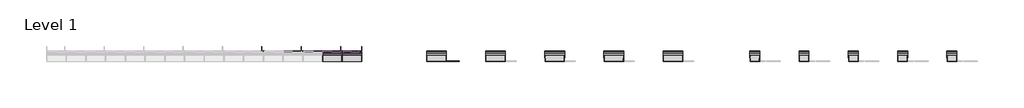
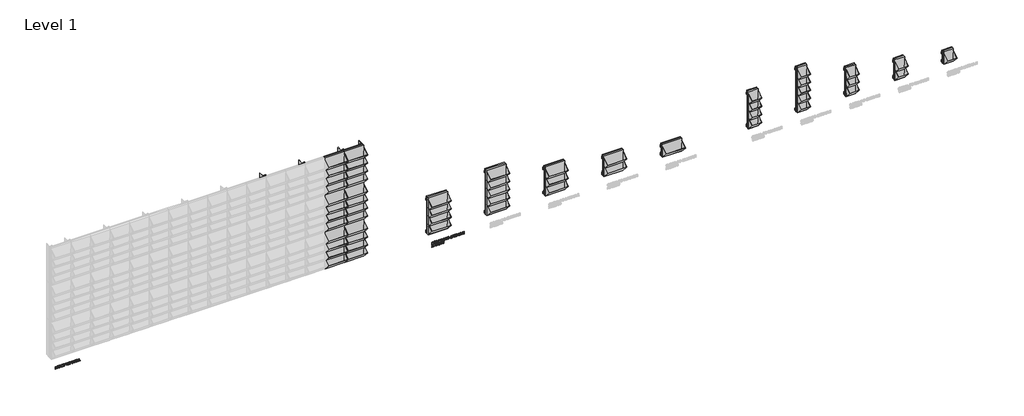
# One storey, part 2 of 5: 41 members, 16 plates, 2 proxies.
"""IFC4 building model written with IfcOpenShell, lengths in millimetres."""

from ifc_helpers import new_model, si_unit, frame, origin, place, context, project, spatial, polyline, outline, extrude, transform, mapped, element, save
from components import rectangular_mullion_profile_l_40x60x2_middle_c334e065, rectangular_mullion_profile_l_40x60x2_side_1_11e097ac, rectangular_mullion_profile_z_30x20x30x3_bba282d4, rectangular_mullion_profile_z_30x20x30x3_c05b1c9d, rectangular_mullion_profile_z_30x20x30x3_3003ded6, rectangular_mullion_profile_z_30x20x30x3_0b947876, rectangular_mullion_profile_z_30x20x30x3_bottom_9ee6513d, rectangular_mullion_profile_z_30x20x30x3_bottom_7d50e40c, rectangular_mullion_profile_z_30x20x30x3_bottom_b9145eb6, panel_ecofacade_panel_ecofacade_bfa1dbbb, panel_ecofacade_panel_ecofacade_b6755e2b, panel_ecofacade_panel_ecofacade_10492d0d, panel_ecofacade_panel_ecofacade_8605d590, panel_ecofacade_panel_ecofacade_d5916462, panel_ecofacade_panel_ecofacade_49a1f75b, panel_ecofacade_panel_ecofacade_a60c9421, panel_ecofacade_panel_ecofacade_c2fa214b, panel_ecofacade_panel_ecofacade_08ac33c5, panel_ecofacade_panel_ecofacade_ab77ffb4

model = new_model("IFC4")

# Units and contexts
model_context = context("Model", 3, world=origin())
ifc_project = project(units=[si_unit("LENGTHUNIT", "METRE", prefix="MILLI")], contexts=[model_context])

# Site, building, storey
site = spatial("IfcSite", under=ifc_project)
building = spatial("IfcBuilding", under=site)
storey = spatial("IfcBuildingStorey", under=building, Name="Level 1", Elevation=0.0)

# Proxies
placement = place(None, origin())
element("IfcBuildingElementProxy", 1, Name="30mm Arial", ObjectType="30mm Arial", at=placement, inside=storey, context=model_context, shape_type="SweptSolid", body=[
    extrude(outline(polyline([(-74.4591489, -760.1545374), (-80.2128233, -758.528499), (-84.0240807, -754.2721043), (-85.2895948, -747.5435426), (-84.1160512, -741.8450505), (-80.8271862, -737.9602166), (-76.3206318, -736.6100897), (-72.0605583, -737.7836333), (-69.0071377, -741.4293438), (-67.1162242, -748.0953656), (-65.0119392, -754.2463526), (-62.3999771, -755.4456479), (-59.2729801, -753.7533907), (-57.9780355, -748.3602406), (-59.2876954, -742.9818059), (-63.157814, -740.8480903), (-63.157814, -737.0809787), (-58.4415668, -738.5745796), (-55.2851393, -742.5477051), (-54.2109238, -748.5073934), (-55.2373146, -754.0918421), (-58.2465893, -757.9067784), (-62.5103417, -759.2127595), (-66.2553804, -758.1569382), (-69.0586412, -754.952686), (-70.9164452, -749.04818), (-72.3548638, -743.5630594), (-74.0655151, -741.0026007), (-76.4162811, -740.3772013), (-78.9436304, -741.2122935), (-80.8345438, -743.7543581), (-81.5224832, -747.6906954), (-80.6138146, -752.2082863), (-78.2299393, -755.1734152), (-74.4591489, -756.3874258), (-74.4591489, -760.1545374)])), frame((0.0, -152.7156773, 0.0), z_axis=(0.0, 1.0, 0.0), x_axis=(0.0, 0.0, 1.0)), (0.0, 0.0, 1.0), 5.0),
    extrude(outline(polyline([(-84.8187058, -723.425199), (-84.8187058, -719.6580874), (-58.4489244, -719.6580874), (-58.4489244, -709.7694193), (-54.6818128, -709.7694193), (-54.6818128, -733.313867), (-58.4489244, -733.313867), (-58.4489244, -723.425199), (-84.8187058, -723.425199)])), frame((0.0, -152.7156773, 0.0), z_axis=(0.0, 1.0, 0.0), x_axis=(0.0, 0.0, 1.0)), (0.0, 0.0, 1.0), 5.0),
    extrude(outline(polyline([(-84.8187058, -709.041013), (-84.8187058, -705.0605298), (-75.4009268, -701.6171543), (-75.4009268, -689.2048158), (-84.8187058, -685.7540827), (-84.8187058, -681.7735995), (-54.6818128, -693.8033408), (-54.6818128, -697.0112718), (-84.8187058, -709.041013)]), holes=[polyline([(-71.6338151, -700.233918), (-63.5771994, -697.2835044), (-58.4489244, -695.4073063), (-64.2246718, -693.2956636), (-71.6338151, -690.5806945), (-71.6338151, -700.233918)])]), frame((0.0, -152.7156773, 0.0), z_axis=(0.0, 1.0, 0.0), x_axis=(0.0, 0.0, 1.0)), (0.0, 0.0, 1.0), 5.0),
    extrude(outline(polyline([(-84.8187058, -677.7489705), (-84.8187058, -673.9818589), (-60.9358067, -673.9818589), (-84.8187058, -658.2365095), (-84.8187058, -654.2045228), (-54.6818128, -654.2045228), (-54.6818128, -657.9716344), (-78.5573543, -657.9716344), (-54.6818128, -673.7169838), (-54.6818128, -677.7489705), (-84.8187058, -677.7489705)])), frame((0.0, -152.7156773, 0.0), z_axis=(0.0, 1.0, 0.0), x_axis=(0.0, 0.0, 1.0)), (0.0, 0.0, 1.0), 5.0),
    extrude(outline(polyline([(-84.8187058, -647.6120774), (-84.8187058, -636.7154127), (-84.3036711, -631.8704069), (-82.7916761, -628.2688421), (-80.0583128, -625.5170848), (-75.6694806, -623.4569456), (-69.5883912, -622.6549629), (-62.42205, -623.8395429), (-57.271702, -627.4079983), (-55.1159136, -631.8372975), (-54.6818128, -637.2157323), (-54.6818128, -647.6120774), (-84.8187058, -647.6120774)]), holes=[polyline([(-81.0515942, -643.8449658), (-58.4489244, -643.8449658), (-58.4489244, -637.281951), (-59.0522509, -631.9403044), (-62.3926194, -628.0297188), (-69.5295301, -626.4220745), (-75.2280222, -627.2424514), (-78.9693821, -629.5343562), (-80.5071289, -632.3302594), (-81.0515942, -637.1789441), (-81.0515942, -643.8449658)])]), frame((0.0, -152.7156773, 0.0), z_axis=(0.0, 1.0, 0.0), x_axis=(0.0, 0.0, 1.0)), (0.0, 0.0, 1.0), 5.0),
    extrude(outline(polyline([(-84.8187058, -620.9847786), (-84.8187058, -617.0042954), (-75.4009268, -613.56092), (-75.4009268, -601.1485814), (-84.8187058, -597.6978483), (-84.8187058, -593.7173651), (-54.6818128, -605.7471064), (-54.6818128, -608.9550374), (-84.8187058, -620.9847786)]), holes=[polyline([(-71.6338151, -612.1776837), (-63.5771994, -609.2272701), (-58.4489244, -607.3510719), (-64.2246718, -605.2394292), (-71.6338151, -602.5244601), (-71.6338151, -612.1776837)])]), frame((0.0, -152.7156773, 0.0), z_axis=(0.0, 1.0, 0.0), x_axis=(0.0, 0.0, 1.0)), (0.0, 0.0, 1.0), 5.0),
    extrude(outline(polyline([(-84.8187058, -589.6927361), (-84.8187058, -585.9256245), (-71.6338151, -585.9256245), (-71.6338151, -581.378603), (-71.7662527, -579.193384), (-72.4836225, -577.4017987), (-74.4370759, -575.4115571), (-78.5720696, -572.5788657), (-84.8187058, -568.6572436), (-84.8187058, -564.2794479), (-76.6517256, -569.3047159), (-72.7742493, -572.3581365), (-71.1629262, -574.4992097), (-68.3596654, -568.1900335), (-62.9297271, -566.1482884), (-58.3716692, -567.3806931), (-55.494832, -570.6769158), (-54.6818128, -576.7065017), (-54.6818128, -589.6927361), (-84.8187058, -589.6927361)]), holes=[polyline([(-67.8667035, -585.9256245), (-58.4489244, -585.9256245), (-58.4489244, -576.5446336), (-59.7512267, -571.5083291), (-63.0695223, -569.9154001), (-65.6263022, -570.7504922), (-67.3332746, -573.1932286), (-67.8667035, -577.4937692), (-67.8667035, -585.9256245)])]), frame((0.0, -152.7156773, 0.0), z_axis=(0.0, 1.0, 0.0), x_axis=(0.0, 0.0, 1.0)), (0.0, 0.0, 1.0), 5.0),
    extrude(outline(polyline([(-84.8187058, -559.5558431), (-84.8187058, -548.6591784), (-84.3036711, -543.8141725), (-82.7916761, -540.2126078), (-80.0583128, -537.4608504), (-75.6694806, -535.4007113), (-69.5883912, -534.5987285), (-62.42205, -535.7833085), (-57.271702, -539.3517639), (-55.1159136, -543.7810631), (-54.6818128, -549.1594979), (-54.6818128, -559.5558431), (-84.8187058, -559.5558431)]), holes=[polyline([(-81.0515942, -555.7887314), (-58.4489244, -555.7887314), (-58.4489244, -549.2257166), (-59.0522509, -543.8840701), (-62.3926194, -539.9734845), (-69.5295301, -538.3658402), (-75.2280222, -539.186217), (-78.9693821, -541.4781218), (-80.5071289, -544.274025), (-81.0515942, -549.1227097), (-81.0515942, -555.7887314)])]), frame((0.0, -152.7156773, 0.0), z_axis=(0.0, 1.0, 0.0), x_axis=(0.0, 0.0, 1.0)), (0.0, 0.0, 1.0), 5.0),
    extrude(outline(polyline([(-84.8187058, -517.6467262), (-84.8187058, -513.8796146), (-58.4489244, -513.8796146), (-84.8187058, -506.3086031), (-84.8187058, -501.202401), (-58.4489244, -493.6313895), (-84.8187058, -493.6313895), (-84.8187058, -489.8642779), (-54.6818128, -489.8642779), (-54.6818128, -496.3463587), (-75.5554372, -502.4090539), (-80.3599761, -503.755502), (-75.9233192, -504.9989432), (-54.6818128, -511.1646454), (-54.6818128, -517.6467262), (-84.8187058, -517.6467262)])), frame((0.0, -152.7156773, 0.0), z_axis=(0.0, 1.0, 0.0), x_axis=(0.0, 0.0, 1.0)), (0.0, 0.0, 1.0), 5.0),
    extrude(outline(polyline([(-70.1475719, -484.6844994), (-77.6486858, -482.9628117), (-83.2404921, -477.9007554), (-85.2895948, -470.3223863), (-83.4354695, -463.0272864), (-77.9761007, -457.803362), (-69.8017628, -455.9602732), (-61.7377895, -457.7113915), (-56.1974866, -462.8028783), (-54.2109238, -470.3003134), (-58.4415668, -480.667228), (-70.1475719, -484.6844994)]), holes=[polyline([(-70.1843601, -480.9173878), (-60.7923327, -477.7756755), (-57.9780355, -470.2782405), (-59.438527, -464.7489741), (-63.5551265, -461.0076142), (-69.7723322, -459.7273849), (-78.461705, -462.7182655), (-81.5224832, -470.3444592), (-78.4911355, -477.9044342), (-70.1843601, -480.9173878)])]), frame((0.0, -152.7156773, 0.0), z_axis=(0.0, 1.0, 0.0), x_axis=(0.0, 0.0, 1.0)), (0.0, 0.0, 1.0), 5.0),
    extrude(outline(polyline([(-84.8187058, -450.7804947), (-84.8187058, -439.88383), (-84.3036711, -435.0388242), (-82.7916761, -431.4372594), (-80.0583128, -428.6855021), (-75.6694806, -426.6253629), (-69.5883912, -425.8233802), (-62.42205, -427.0079602), (-57.271702, -430.5764156), (-55.1159136, -435.0057148), (-54.6818128, -440.3841496), (-54.6818128, -450.7804947), (-84.8187058, -450.7804947)]), holes=[polyline([(-81.0515942, -447.0133831), (-58.4489244, -447.0133831), (-58.4489244, -440.4503683), (-59.0522509, -435.1087217), (-62.3926194, -431.1981361), (-69.5295301, -429.5904918), (-75.2280222, -430.4108687), (-78.9693821, -432.7027735), (-80.5071289, -435.4986767), (-81.0515942, -440.3473614), (-81.0515942, -447.0133831)])]), frame((0.0, -152.7156773, 0.0), z_axis=(0.0, 1.0, 0.0), x_axis=(0.0, 0.0, 1.0)), (0.0, 0.0, 1.0), 5.0),
    extrude(outline(polyline([(-54.6818128, -400.8662656), (-71.9354784, -400.8662656), (-79.543278, -402.7718944), (-81.5224832, -409.1509682), (-80.5218441, -413.5802674), (-77.6781163, -416.1333684), (-71.9354784, -416.8764901), (-54.6818128, -416.8764901), (-54.6818128, -420.6436017), (-72.0679159, -420.6436017), (-79.6131756, -419.4994887), (-83.8327821, -415.6808736), (-85.2895948, -408.7978014), (-83.6157317, -401.8080435), (-79.2747242, -398.1218659), (-72.0679159, -397.099154), (-54.6818128, -397.099154), (-54.6818128, -400.8662656)])), frame((0.0, -152.7156773, 0.0), z_axis=(0.0, 1.0, 0.0), x_axis=(0.0, 0.0, 1.0)), (0.0, 0.0, 1.0), 5.0),
    extrude(outline(polyline([(-84.8187058, -390.5067086), (-84.8187058, -371.6711505), (-81.0515942, -371.6711505), (-81.0515942, -386.739597), (-54.6818128, -386.739597), (-54.6818128, -390.5067086), (-84.8187058, -390.5067086)])), frame((0.0, -152.7156773, 0.0), z_axis=(0.0, 1.0, 0.0), x_axis=(0.0, 0.0, 1.0)), (0.0, 0.0, 1.0), 5.0),
    extrude(outline(polyline([(-84.8187058, -367.4331499), (-84.8187058, -345.3013691), (-81.0515942, -345.3013691), (-81.0515942, -363.6660383), (-71.1629262, -363.6660383), (-71.1629262, -346.7140359), (-67.3958146, -346.7140359), (-67.3958146, -363.6660383), (-58.4489244, -363.6660383), (-58.4489244, -345.772258), (-54.6818128, -345.772258), (-54.6818128, -367.4331499), (-84.8187058, -367.4331499)])), frame((0.0, -152.7156773, 0.0), z_axis=(0.0, 1.0, 0.0), x_axis=(0.0, 0.0, 1.0)), (0.0, 0.0, 1.0), 5.0),
    extrude(outline(polyline([(-117.6440396, -740.8480903), (-117.6440396, -755.6443041), (-115.7273744, -753.9446893), (-112.1037367, -749.6110394), (-106.9423523, -744.2142106), (-103.2488171, -741.9885245), (-99.6766829, -741.3189792), (-93.687564, -743.8021827), (-91.2742582, -750.5454597), (-93.4447619, -757.2666637), (-99.7502593, -760.1545374), (-100.2211483, -756.3874258), (-96.4172484, -754.8018544), (-95.0413698, -750.6263937), (-96.4503578, -746.6201588), (-99.9047698, -745.0860909), (-104.1722009, -746.7121293), (-110.4482677, -753.216283), (-114.815027, -757.9325302), (-118.8139043, -760.2207562), (-121.4111512, -760.6254264), (-121.4111512, -740.8480903), (-117.6440396, -740.8480903)])), frame((0.0, -152.7156773, 0.0), z_axis=(0.0, 1.0, 0.0), x_axis=(0.0, 0.0, 1.0)), (0.0, 0.0, 1.0), 5.0),
    extrude(outline(polyline([(-113.406039, -737.0809787), (-119.5607048, -734.1416015), (-121.8820402, -727.4939739), (-118.269439, -719.665445), (-111.2796811, -717.3036426), (-104.334069, -719.9266412), (-101.6338151, -726.368255), (-103.8116766, -731.8791273), (-95.5122587, -730.2678041), (-95.5122587, -718.7163095), (-91.7451471, -718.7163095), (-91.7451471, -733.313867), (-107.2844826, -736.6100897), (-107.7553715, -732.8429781), (-106.0557567, -730.7276566), (-105.4009268, -727.4203975), (-107.0416805, -722.648968), (-111.5151255, -721.0707542), (-116.3086279, -722.7556538), (-118.1149285, -727.4792586), (-116.8163051, -731.4155959), (-112.93515, -733.313867), (-113.406039, -737.0809787)])), frame((0.0, -152.7156773, 0.0), z_axis=(0.0, 1.0, 0.0), x_axis=(0.0, 0.0, 1.0)), (0.0, 0.0, 1.0), 5.0),
    extrude(outline(polyline([(-106.5855068, -714.0074199), (-119.0125606, -711.0055028), (-121.8820402, -704.1187519), (-120.23025, -698.6042008), (-115.2196972, -695.3263722), (-106.5855068, -694.2300839), (-99.5037784, -694.9143444), (-95.0450486, -696.680178), (-92.2454666, -699.7188832), (-91.2742582, -704.1187519), (-92.9150119, -709.6112301), (-97.9145282, -712.9000951), (-106.5855068, -714.0074199)]), holes=[polyline([(-106.5781492, -710.2403083), (-97.0573631, -708.4156136), (-95.0413698, -704.1628977), (-97.3295958, -699.704168), (-106.5781492, -697.9971955), (-115.9260307, -699.7630291), (-118.1149285, -704.1187519), (-115.9333883, -708.4744747), (-106.5781492, -710.2403083)])]), frame((0.0, -152.7156773, 0.0), z_axis=(0.0, 1.0, 0.0), x_axis=(0.0, 0.0, 1.0)), (0.0, 0.0, 1.0), 5.0),
    extrude(outline(polyline([(-121.4111512, -692.3465281), (-121.4111512, -687.8142219), (-114.7230565, -681.2438494), (-121.4111512, -676.6306092), (-121.4111512, -672.098303), (-110.2863997, -679.7649638), (-99.2793704, -671.8039974), (-99.2793704, -676.3363036), (-105.0330448, -680.5007278), (-107.0784687, -681.9796134), (-104.5768711, -683.6865859), (-99.2793704, -687.3433329), (-99.2793704, -691.8756391), (-110.2863997, -684.29727), (-121.4111512, -692.3465281)])), frame((0.0, -152.7156773, 0.0), z_axis=(0.0, 1.0, 0.0), x_axis=(0.0, 0.0, 1.0)), (0.0, 0.0, 1.0), 5.0),
    extrude(outline(polyline([(-113.406039, -669.7438583), (-119.5607048, -666.8044811), (-121.8820402, -660.1568535), (-118.269439, -652.3283246), (-111.2796811, -649.9665222), (-104.334069, -652.5895208), (-101.6338151, -659.0311346), (-103.8116766, -664.5420069), (-95.5122587, -662.9306837), (-95.5122587, -651.3791891), (-91.7451471, -651.3791891), (-91.7451471, -665.9767466), (-107.2844826, -669.2729693), (-107.7553715, -665.5058577), (-106.0557567, -663.3905362), (-105.4009268, -660.0832771), (-107.0416805, -655.3118476), (-111.5151255, -653.7336338), (-116.3086279, -655.4185334), (-118.1149285, -660.1421382), (-116.8163051, -664.0784755), (-112.93515, -665.9767466), (-113.406039, -669.7438583)])), frame((0.0, -152.7156773, 0.0), z_axis=(0.0, 1.0, 0.0), x_axis=(0.0, 0.0, 1.0)), (0.0, 0.0, 1.0), 5.0),
    extrude(outline(polyline([(-106.5855068, -646.6702995), (-119.0125606, -643.6683824), (-121.8820402, -636.7816315), (-120.23025, -631.2670804), (-115.2196972, -627.9892518), (-106.5855068, -626.8929635), (-99.5037784, -627.577224), (-95.0450486, -629.3430576), (-92.2454666, -632.3817628), (-91.2742582, -636.7816315), (-92.9150119, -642.2741097), (-97.9145282, -645.5629747), (-106.5855068, -646.6702995)]), holes=[polyline([(-106.5781492, -642.9031879), (-97.0573631, -641.0784932), (-95.0413698, -636.8257773), (-97.3295958, -632.3670476), (-106.5781492, -630.6600751), (-115.9260307, -632.4259087), (-118.1149285, -636.7816315), (-115.9333883, -641.1373543), (-106.5781492, -642.9031879)])]), frame((0.0, -152.7156773, 0.0), z_axis=(0.0, 1.0, 0.0), x_axis=(0.0, 0.0, 1.0)), (0.0, 0.0, 1.0), 5.0),
    extrude(outline(polyline([(-106.5855068, -623.5967408), (-119.0125606, -620.5948237), (-121.8820402, -613.7080728), (-120.23025, -608.1935217), (-115.2196972, -604.9156931), (-106.5855068, -603.8194047), (-99.5037784, -604.5036652), (-95.0450486, -606.2694988), (-92.2454666, -609.3082041), (-91.2742582, -613.7080728), (-92.9150119, -619.200551), (-97.9145282, -622.489416), (-106.5855068, -623.5967408)]), holes=[polyline([(-106.5781492, -619.8296292), (-97.0573631, -618.0049345), (-95.0413698, -613.7522186), (-97.3295958, -609.2934888), (-106.5781492, -607.5865164), (-115.9260307, -609.3523499), (-118.1149285, -613.7080728), (-115.9333883, -618.0637956), (-106.5781492, -619.8296292)])]), frame((0.0, -152.7156773, 0.0), z_axis=(0.0, 1.0, 0.0), x_axis=(0.0, 0.0, 1.0)), (0.0, 0.0, 1.0), 5.0),
])
element("IfcBuildingElementProxy", 2, Name="30mm Arial", ObjectType="30mm Arial", at=placement, inside=storey, context=model_context, shape_type="SweptSolid", body=[
    extrude(outline(polyline([(-84.8187058, -5578.7418704), (-84.8187058, -5556.6100896), (-81.0515942, -5556.6100896), (-81.0515942, -5574.9747588), (-71.1629262, -5574.9747588), (-71.1629262, -5558.0227564), (-67.3958146, -5558.0227564), (-67.3958146, -5574.9747588), (-58.4489244, -5574.9747588), (-58.4489244, -5557.0809785), (-54.6818128, -5557.0809785), (-54.6818128, -5578.7418704), (-84.8187058, -5578.7418704)])), frame((0.0, -152.7156773, 0.0), z_axis=(0.0, 1.0, 0.0), x_axis=(0.0, 0.0, 1.0)), (0.0, 0.0, 1.0), 5.0),
    extrude(outline(polyline([(-84.8187058, -5554.2556448), (-84.8187058, -5549.6718351), (-74.1206974, -5542.1155389), (-71.6338151, -5540.3423477), (-73.8999682, -5538.7310246), (-84.8187058, -5530.9907874), (-84.8187058, -5526.4731965), (-68.4405994, -5538.0909099), (-54.6818128, -5528.3567523), (-54.6818128, -5532.940562), (-62.3484736, -5538.3631426), (-65.4092518, -5540.5262887), (-62.3999771, -5542.3730563), (-54.6818128, -5547.8544981), (-54.6818128, -5552.372089), (-68.3964536, -5542.6379314), (-84.8187058, -5554.2556448)])), frame((0.0, -152.7156773, 0.0), z_axis=(0.0, 1.0, 0.0), x_axis=(0.0, 0.0, 1.0)), (0.0, 0.0, 1.0), 5.0),
    extrude(outline(polyline([(-84.8187058, -5526.2156791), (-84.8187058, -5522.2351959), (-75.4009268, -5518.7918205), (-75.4009268, -5506.3794819), (-84.8187058, -5502.9287488), (-84.8187058, -5498.9482656), (-54.6818128, -5510.9780069), (-54.6818128, -5514.1859379), (-84.8187058, -5526.2156791)]), holes=[polyline([(-71.6338151, -5517.4085842), (-63.5771994, -5514.4581706), (-58.4489244, -5512.5819724), (-64.2246718, -5510.4703297), (-71.6338151, -5507.7553606), (-71.6338151, -5517.4085842)])]), frame((0.0, -152.7156773, 0.0), z_axis=(0.0, 1.0, 0.0), x_axis=(0.0, 0.0, 1.0)), (0.0, 0.0, 1.0), 5.0),
    extrude(outline(polyline([(-84.8187058, -5494.9236366), (-84.8187058, -5491.156525), (-58.4489244, -5491.156525), (-84.8187058, -5483.5855135), (-84.8187058, -5478.4793114), (-58.4489244, -5470.9083), (-84.8187058, -5470.9083), (-84.8187058, -5467.1411883), (-54.6818128, -5467.1411883), (-54.6818128, -5473.6232691), (-75.5554372, -5479.6859644), (-80.3599761, -5481.0324125), (-75.9233192, -5482.2758536), (-54.6818128, -5488.4415559), (-54.6818128, -5494.9236366), (-84.8187058, -5494.9236366)])), frame((0.0, -152.7156773, 0.0), z_axis=(0.0, 1.0, 0.0), x_axis=(0.0, 0.0, 1.0)), (0.0, 0.0, 1.0), 5.0),
    extrude(outline(polyline([(-84.8187058, -5460.548743), (-84.8187058, -5456.7816313), (-72.575593, -5456.7816313), (-72.575593, -5449.1223282), (-69.9121274, -5440.3704155), (-63.4006161, -5437.9460732), (-59.2913742, -5438.8437053), (-56.3777488, -5441.2165441), (-54.9687608, -5444.87697), (-54.6818128, -5449.3798456), (-54.6818128, -5460.548743), (-84.8187058, -5460.548743)]), holes=[polyline([(-68.8084814, -5456.7816313), (-58.4489244, -5456.7816313), (-58.4489244, -5448.9898907), (-58.7064418, -5445.2227791), (-60.4134143, -5442.6807145), (-63.5330536, -5441.7131848), (-67.4252451, -5443.3539385), (-68.8084814, -5448.901599), (-68.8084814, -5456.7816313)])]), frame((0.0, -152.7156773, 0.0), z_axis=(0.0, 1.0, 0.0), x_axis=(0.0, 0.0, 1.0)), (0.0, 0.0, 1.0), 5.0),
    extrude(outline(polyline([(-84.8187058, -5432.7662947), (-84.8187058, -5413.9307365), (-81.0515942, -5413.9307365), (-81.0515942, -5428.9991831), (-54.6818128, -5428.9991831), (-54.6818128, -5432.7662947), (-84.8187058, -5432.7662947)])), frame((0.0, -152.7156773, 0.0), z_axis=(0.0, 1.0, 0.0), x_axis=(0.0, 0.0, 1.0)), (0.0, 0.0, 1.0), 5.0),
    extrude(outline(polyline([(-84.8187058, -5409.692736), (-84.8187058, -5387.5609551), (-81.0515942, -5387.5609551), (-81.0515942, -5405.9256243), (-71.1629262, -5405.9256243), (-71.1629262, -5388.973622), (-67.3958146, -5388.973622), (-67.3958146, -5405.9256243), (-58.4489244, -5405.9256243), (-58.4489244, -5388.0318441), (-54.6818128, -5388.0318441), (-54.6818128, -5409.692736), (-84.8187058, -5409.692736)])), frame((0.0, -152.7156773, 0.0), z_axis=(0.0, 1.0, 0.0), x_axis=(0.0, 0.0, 1.0)), (0.0, 0.0, 1.0), 5.0),
    extrude(outline(polyline([(-84.8187058, -5364.7449138), (-84.8187058, -5360.1978923), (-62.2307513, -5353.6128046), (-58.3238446, -5352.4797281), (-61.5685638, -5351.4717314), (-84.8187058, -5344.246529), (-84.8187058, -5340.2219), (-54.6818128, -5331.9960586), (-54.6818128, -5335.8808925), (-74.6651628, -5340.6927889), (-80.6027782, -5342.1201711), (-69.551603, -5345.350175), (-54.6818128, -5349.6911826), (-54.6818128, -5355.2903465), (-75.1949129, -5361.2647501), (-80.6027782, -5362.8392851), (-74.4885794, -5364.310813), (-54.6818128, -5369.0785637), (-54.6818128, -5372.9633976), (-84.8187058, -5364.7449138)])), frame((0.0, -152.7156773, 0.0), z_axis=(0.0, 1.0, 0.0), x_axis=(0.0, 0.0, 1.0)), (0.0, 0.0, 1.0), 5.0),
    extrude(outline(polyline([(-84.8187058, -5331.7385412), (-84.8187058, -5327.758058), (-75.4009268, -5324.3146825), (-75.4009268, -5311.902344), (-84.8187058, -5308.4516109), (-84.8187058, -5304.4711277), (-54.6818128, -5316.5008689), (-54.6818128, -5319.7087999), (-84.8187058, -5331.7385412)]), holes=[polyline([(-71.6338151, -5322.9314462), (-63.5771994, -5319.9810326), (-58.4489244, -5318.1048344), (-64.2246718, -5315.9931918), (-71.6338151, -5313.2782227), (-71.6338151, -5322.9314462)])]), frame((0.0, -152.7156773, 0.0), z_axis=(0.0, 1.0, 0.0), x_axis=(0.0, 0.0, 1.0)), (0.0, 0.0, 1.0), 5.0),
    extrude(outline(polyline([(-84.8187058, -5300.4464987), (-84.8187058, -5281.6109405), (-81.0515942, -5281.6109405), (-81.0515942, -5296.679387), (-54.6818128, -5296.679387), (-54.6818128, -5300.4464987), (-84.8187058, -5300.4464987)])), frame((0.0, -152.7156773, 0.0), z_axis=(0.0, 1.0, 0.0), x_axis=(0.0, 0.0, 1.0)), (0.0, 0.0, 1.0), 5.0),
    extrude(outline(polyline([(-84.8187058, -5277.3729399), (-84.8187058, -5258.5373818), (-81.0515942, -5258.5373818), (-81.0515942, -5273.6058283), (-54.6818128, -5273.6058283), (-54.6818128, -5277.3729399), (-84.8187058, -5277.3729399)])), frame((0.0, -152.7156773, 0.0), z_axis=(0.0, 1.0, 0.0), x_axis=(0.0, 0.0, 1.0)), (0.0, 0.0, 1.0), 5.0),
])

# Members
rectangular_mullion_profile_l_40x60x2_middle_shape = rectangular_mullion_profile_l_40x60x2_middle_c334e065(model_context)
element("IfcMember", 3, ObjectType="Rectangular Mullion : Profile L 40x60x2 - middle", at=placement, inside=storey, context=model_context, shape_type="MappedRepresentation", body=[
    mapped(rectangular_mullion_profile_l_40x60x2_middle_shape, transform((-2832.0380928, -72.7156773, 1000.0), x_axis=(1.0, 0.0, 0.0), y_axis=(0.0, -1.0, 0.0), z_axis=(0.0, 0.0, -1.0))),
])
element("IfcMember", 4, ObjectType="Rectangular Mullion : Profile L 40x60x2 - middle", at=placement, inside=storey, context=model_context, shape_type="MappedRepresentation", body=[
    mapped(rectangular_mullion_profile_l_40x60x2_middle_shape, transform((-2332.0380928, -72.7156773, 1000.0), x_axis=(1.0, 0.0, 0.0), y_axis=(0.0, -1.0, 0.0), z_axis=(0.0, 0.0, -1.0))),
])
element("IfcMember", 5, ObjectType="Rectangular Mullion : Profile L 40x60x2 - middle", at=placement, inside=storey, context=model_context, shape_type="MappedRepresentation", body=[
    mapped(rectangular_mullion_profile_l_40x60x2_middle_shape, transform((-1832.0380928, -72.7156773, 1000.0), x_axis=(1.0, 0.0, 0.0), y_axis=(0.0, -1.0, 0.0), z_axis=(0.0, 0.0, -1.0))),
])
element("IfcMember", 6, ObjectType="Rectangular Mullion : Profile L 40x60x2 - middle", at=placement, inside=storey, context=model_context, shape_type="MappedRepresentation", body=[
    mapped(rectangular_mullion_profile_l_40x60x2_middle_shape, transform((-2832.0380928, -72.7156773, 500.0), x_axis=(1.0, 0.0, 0.0), y_axis=(0.0, -1.0, 0.0), z_axis=(0.0, 0.0, -1.0))),
])
element("IfcMember", 7, ObjectType="Rectangular Mullion : Profile L 40x60x2 - middle", at=placement, inside=storey, context=model_context, shape_type="MappedRepresentation", body=[
    mapped(rectangular_mullion_profile_l_40x60x2_middle_shape, transform((-2332.0380928, -72.7156773, 500.0), x_axis=(1.0, 0.0, 0.0), y_axis=(0.0, -1.0, 0.0), z_axis=(0.0, 0.0, -1.0))),
])
element("IfcMember", 8, ObjectType="Rectangular Mullion : Profile L 40x60x2 - middle", at=placement, inside=storey, context=model_context, shape_type="MappedRepresentation", body=[
    mapped(rectangular_mullion_profile_l_40x60x2_middle_shape, transform((-1832.0380928, -72.7156773, 500.0), x_axis=(1.0, 0.0, 0.0), y_axis=(0.0, -1.0, 0.0), z_axis=(0.0, 0.0, -1.0))),
])
element("IfcMember", 9, ObjectType="Rectangular Mullion : Profile L 40x60x2 - middle", at=placement, inside=storey, context=model_context, shape_type="MappedRepresentation", body=[
    mapped(rectangular_mullion_profile_l_40x60x2_middle_shape, transform((-2832.0380928, -72.7156773, 0.0), x_axis=(1.0, 0.0, 0.0), y_axis=(0.0, -1.0, 0.0), z_axis=(0.0, 0.0, -1.0))),
])
element("IfcMember", 10, ObjectType="Rectangular Mullion : Profile L 40x60x2 - middle", at=placement, inside=storey, context=model_context, shape_type="MappedRepresentation", body=[
    mapped(rectangular_mullion_profile_l_40x60x2_middle_shape, transform((-2332.0380928, -72.7156773, 0.0), x_axis=(1.0, 0.0, 0.0), y_axis=(0.0, -1.0, 0.0), z_axis=(0.0, 0.0, -1.0))),
])
element("IfcMember", 11, ObjectType="Rectangular Mullion : Profile L 40x60x2 - middle", at=placement, inside=storey, context=model_context, shape_type="MappedRepresentation", body=[
    mapped(rectangular_mullion_profile_l_40x60x2_middle_shape, transform((-1832.0380928, -72.7156773, 0.0), x_axis=(1.0, 0.0, 0.0), y_axis=(0.0, -1.0, 0.0), z_axis=(0.0, 0.0, -1.0))),
])
rectangular_mullion_profile_l_40x60x2_side_1_shape = rectangular_mullion_profile_l_40x60x2_side_1_11e097ac(model_context)
element("IfcMember", 12, ObjectType="Rectangular Mullion : Profile L 40x60x2 - side (1)", at=placement, inside=storey, context=model_context, shape_type="MappedRepresentation", body=[
    mapped(rectangular_mullion_profile_l_40x60x2_side_1_shape, transform((-1582.0380931, -72.7156773, 1000.0), x_axis=(1.0, 0.0, 0.0), y_axis=(0.0, -1.0, 0.0), z_axis=(0.0, 0.0, -1.0))),
])
element("IfcMember", 13, ObjectType="Rectangular Mullion : Profile L 40x60x2 - side (1)", at=placement, inside=storey, context=model_context, shape_type="MappedRepresentation", body=[
    mapped(rectangular_mullion_profile_l_40x60x2_side_1_shape, transform((-1582.0380931, -72.7156773, 500.0), x_axis=(1.0, 0.0, 0.0), y_axis=(0.0, -1.0, 0.0), z_axis=(0.0, 0.0, -1.0))),
])
element("IfcMember", 14, ObjectType="Rectangular Mullion : Profile L 40x60x2 - side (1)", at=placement, inside=storey, context=model_context, shape_type="MappedRepresentation", body=[
    mapped(rectangular_mullion_profile_l_40x60x2_side_1_shape, transform((-1582.0380931, -72.7156773, 0.0), x_axis=(1.0, 0.0, 0.0), y_axis=(0.0, -1.0, 0.0), z_axis=(0.0, 0.0, -1.0))),
])
rectangular_mullion_profile_z_30x20x30x3_shape = rectangular_mullion_profile_z_30x20x30x3_bba282d4(model_context)
element("IfcMember", 15, ObjectType="Rectangular Mullion : Profile Z 30x20x30x3", at=placement, inside=storey, context=model_context, shape_type="MappedRepresentation", body=[
    mapped(rectangular_mullion_profile_z_30x20x30x3_shape, transform((-512.0380931, -72.7156773, 500.0), x_axis=(0.0, 0.0, 1.0), y_axis=(0.0, -1.0, 0.0), z_axis=(1.0, 0.0, 0.0))),
])
element("IfcMember", 16, ObjectType="Rectangular Mullion : Profile Z 30x20x30x3", at=placement, inside=storey, context=model_context, shape_type="MappedRepresentation", body=[
    mapped(rectangular_mullion_profile_z_30x20x30x3_shape, transform((237.9619071, -72.7156773, 610.0), x_axis=(0.0, 0.0, 1.0), y_axis=(0.0, -1.0, 0.0), z_axis=(1.0, 0.0, 0.0))),
])
element("IfcMember", 17, ObjectType="Rectangular Mullion : Profile Z 30x20x30x3", at=placement, inside=storey, context=model_context, shape_type="MappedRepresentation", body=[
    mapped(rectangular_mullion_profile_z_30x20x30x3_shape, transform((987.9619072, -72.7156773, 390.0), x_axis=(0.0, 0.0, 1.0), y_axis=(0.0, -1.0, 0.0), z_axis=(1.0, 0.0, 0.0))),
])
element("IfcMember", 18, ObjectType="Rectangular Mullion : Profile Z 30x20x30x3", at=placement, inside=storey, context=model_context, shape_type="MappedRepresentation", body=[
    mapped(rectangular_mullion_profile_z_30x20x30x3_shape, transform((1737.9619073, -72.7156773, 280.0), x_axis=(0.0, 0.0, 1.0), y_axis=(0.0, -1.0, 0.0), z_axis=(1.0, 0.0, 0.0))),
])
element("IfcMember", 19, ObjectType="Rectangular Mullion : Profile Z 30x20x30x3", at=placement, inside=storey, context=model_context, shape_type="MappedRepresentation", body=[
    mapped(rectangular_mullion_profile_z_30x20x30x3_shape, transform((2487.9619075, -72.7156773, 170.0), x_axis=(0.0, 0.0, 1.0), y_axis=(0.0, -1.0, 0.0), z_axis=(1.0, 0.0, 0.0))),
])
rectangular_mullion_profile_z_30x20x30x3_2_shape = rectangular_mullion_profile_z_30x20x30x3_c05b1c9d(model_context)
element("IfcMember", 20, ObjectType="Rectangular Mullion : Profile Z 30x20x30x3", at=placement, inside=storey, context=model_context, shape_type="MappedRepresentation", body=[
    mapped(rectangular_mullion_profile_z_30x20x30x3_2_shape, transform((3462.9619069, -72.7156773, 500.0), x_axis=(0.0, 0.0, 1.0), y_axis=(0.0, -1.0, 0.0), z_axis=(1.0, 0.0, 0.0))),
])
element("IfcMember", 21, ObjectType="Rectangular Mullion : Profile Z 30x20x30x3", at=placement, inside=storey, context=model_context, shape_type="MappedRepresentation", body=[
    mapped(rectangular_mullion_profile_z_30x20x30x3_2_shape, transform((4087.9619069, -72.7156773, 610.0), x_axis=(0.0, 0.0, 1.0), y_axis=(0.0, -1.0, 0.0), z_axis=(1.0, 0.0, 0.0))),
])
element("IfcMember", 22, ObjectType="Rectangular Mullion : Profile Z 30x20x30x3", at=placement, inside=storey, context=model_context, shape_type="MappedRepresentation", body=[
    mapped(rectangular_mullion_profile_z_30x20x30x3_2_shape, transform((4712.9619069, -72.7156773, 390.0), x_axis=(0.0, 0.0, 1.0), y_axis=(0.0, -1.0, 0.0), z_axis=(1.0, 0.0, 0.0))),
])
element("IfcMember", 23, ObjectType="Rectangular Mullion : Profile Z 30x20x30x3", at=placement, inside=storey, context=model_context, shape_type="MappedRepresentation", body=[
    mapped(rectangular_mullion_profile_z_30x20x30x3_2_shape, transform((5337.9619069, -72.7156773, 280.0), x_axis=(0.0, 0.0, 1.0), y_axis=(0.0, -1.0, 0.0), z_axis=(1.0, 0.0, 0.0))),
])
element("IfcMember", 24, ObjectType="Rectangular Mullion : Profile Z 30x20x30x3", at=placement, inside=storey, context=model_context, shape_type="MappedRepresentation", body=[
    mapped(rectangular_mullion_profile_z_30x20x30x3_2_shape, transform((5962.961907, -72.7156773, 170.0), x_axis=(0.0, 0.0, 1.0), y_axis=(0.0, -1.0, 0.0), z_axis=(1.0, 0.0, 0.0))),
])
rectangular_mullion_profile_z_30x20x30x3_3_shape = rectangular_mullion_profile_z_30x20x30x3_3003ded6(model_context)
element("IfcMember", 25, ObjectType="Rectangular Mullion : Profile Z 30x20x30x3", at=placement, inside=storey, context=model_context, shape_type="MappedRepresentation", body=[
    mapped(rectangular_mullion_profile_z_30x20x30x3_3_shape, transform((-2082.0380928, -72.7156773, 1000.0), x_axis=(0.0, 0.0, 1.0), y_axis=(0.0, -1.0, 0.0), z_axis=(1.0, 0.0, 0.0))),
])
element("IfcMember", 26, ObjectType="Rectangular Mullion : Profile Z 30x20x30x3", at=placement, inside=storey, context=model_context, shape_type="MappedRepresentation", body=[
    mapped(rectangular_mullion_profile_z_30x20x30x3_3_shape, transform((-1852.0380928, -72.7156773, 1500.0), x_axis=(0.0, 0.0, 1.0), y_axis=(0.0, -1.0, 0.0), z_axis=(1.0, 0.0, 0.0))),
])
element("IfcMember", 27, ObjectType="Rectangular Mullion : Profile Z 30x20x30x3", at=placement, inside=storey, context=model_context, shape_type="MappedRepresentation", body=[
    mapped(rectangular_mullion_profile_z_30x20x30x3_3_shape, transform((-1852.0380928, -72.7156773, 500.0), x_axis=(0.0, 0.0, 1.0), y_axis=(0.0, -1.0, 0.0), z_axis=(1.0, 0.0, 0.0))),
])
element("IfcMember", 28, ObjectType="Rectangular Mullion : Profile Z 30x20x30x3", at=placement, inside=storey, context=model_context, shape_type="MappedRepresentation", body=[
    mapped(rectangular_mullion_profile_z_30x20x30x3_3_shape, transform((-2352.0380928, -72.7156773, 1000.0), x_axis=(0.0, 0.0, 1.0), y_axis=(0.0, -1.0, 0.0), z_axis=(1.0, 0.0, 0.0))),
])
element("IfcMember", 29, ObjectType="Rectangular Mullion : Profile Z 30x20x30x3", at=placement, inside=storey, context=model_context, shape_type="MappedRepresentation", body=[
    mapped(rectangular_mullion_profile_z_30x20x30x3_3_shape, transform((-1852.0380928, -72.7156773, 1000.0), x_axis=(0.0, 0.0, 1.0), y_axis=(0.0, -1.0, 0.0), z_axis=(1.0, 0.0, 0.0))),
])
rectangular_mullion_profile_z_30x20x30x3_4_shape = rectangular_mullion_profile_z_30x20x30x3_0b947876(model_context)
element("IfcMember", 30, ObjectType="Rectangular Mullion : Profile Z 30x20x30x3", at=placement, inside=storey, context=model_context, shape_type="MappedRepresentation", body=[
    mapped(rectangular_mullion_profile_z_30x20x30x3_4_shape, transform((-1622.0380931, -72.7156773, 1500.0), x_axis=(0.0, 0.0, 1.0), y_axis=(0.0, -1.0, 0.0), z_axis=(1.0, 0.0, 0.0))),
])
element("IfcMember", 31, ObjectType="Rectangular Mullion : Profile Z 30x20x30x3", at=placement, inside=storey, context=model_context, shape_type="MappedRepresentation", body=[
    mapped(rectangular_mullion_profile_z_30x20x30x3_4_shape, transform((-1622.0380931, -72.7156773, 500.0), x_axis=(0.0, 0.0, 1.0), y_axis=(0.0, -1.0, 0.0), z_axis=(1.0, 0.0, 0.0))),
])
element("IfcMember", 32, ObjectType="Rectangular Mullion : Profile Z 30x20x30x3", at=placement, inside=storey, context=model_context, shape_type="MappedRepresentation", body=[
    mapped(rectangular_mullion_profile_z_30x20x30x3_4_shape, transform((-1622.0380931, -72.7156773, 1000.0), x_axis=(0.0, 0.0, 1.0), y_axis=(0.0, -1.0, 0.0), z_axis=(1.0, 0.0, 0.0))),
])
rectangular_mullion_profile_z_30x20x30x3_bottom_shape = rectangular_mullion_profile_z_30x20x30x3_bottom_9ee6513d(model_context)
element("IfcMember", 33, ObjectType="Rectangular Mullion : Profile Z 30x20x30x3 bottom", at=placement, inside=storey, context=model_context, shape_type="MappedRepresentation", body=[
    mapped(rectangular_mullion_profile_z_30x20x30x3_bottom_shape, transform((-762.0380932, -72.7156773, 0.0), x_axis=(0.0, 0.0, -1.0), y_axis=(0.0, -1.0, 0.0), z_axis=(-1.0, 0.0, 0.0))),
])
element("IfcMember", 34, ObjectType="Rectangular Mullion : Profile Z 30x20x30x3 bottom", at=placement, inside=storey, context=model_context, shape_type="MappedRepresentation", body=[
    mapped(rectangular_mullion_profile_z_30x20x30x3_bottom_shape, transform((-12.0380931, -72.7156773, 0.0), x_axis=(0.0, 0.0, -1.0), y_axis=(0.0, -1.0, 0.0), z_axis=(-1.0, 0.0, 0.0))),
])
element("IfcMember", 35, ObjectType="Rectangular Mullion : Profile Z 30x20x30x3 bottom", at=placement, inside=storey, context=model_context, shape_type="MappedRepresentation", body=[
    mapped(rectangular_mullion_profile_z_30x20x30x3_bottom_shape, transform((737.961907, -72.7156773, 0.0), x_axis=(0.0, 0.0, -1.0), y_axis=(0.0, -1.0, 0.0), z_axis=(-1.0, 0.0, 0.0))),
])
element("IfcMember", 36, ObjectType="Rectangular Mullion : Profile Z 30x20x30x3 bottom", at=placement, inside=storey, context=model_context, shape_type="MappedRepresentation", body=[
    mapped(rectangular_mullion_profile_z_30x20x30x3_bottom_shape, transform((1487.9619072, -72.7156773, 0.0), x_axis=(0.0, 0.0, -1.0), y_axis=(0.0, -1.0, 0.0), z_axis=(-1.0, 0.0, 0.0))),
])
element("IfcMember", 37, ObjectType="Rectangular Mullion : Profile Z 30x20x30x3 bottom", at=placement, inside=storey, context=model_context, shape_type="MappedRepresentation", body=[
    mapped(rectangular_mullion_profile_z_30x20x30x3_bottom_shape, transform((2237.9619073, -72.7156773, 0.0), x_axis=(0.0, 0.0, -1.0), y_axis=(0.0, -1.0, 0.0), z_axis=(-1.0, 0.0, 0.0))),
])
rectangular_mullion_profile_z_30x20x30x3_bottom_2_shape = rectangular_mullion_profile_z_30x20x30x3_bottom_7d50e40c(model_context)
element("IfcMember", 38, ObjectType="Rectangular Mullion : Profile Z 30x20x30x3 bottom", at=placement, inside=storey, context=model_context, shape_type="MappedRepresentation", body=[
    mapped(rectangular_mullion_profile_z_30x20x30x3_bottom_2_shape, transform((3337.9619068, -72.7156773, 0.0), x_axis=(0.0, 0.0, -1.0), y_axis=(0.0, -1.0, 0.0), z_axis=(-1.0, 0.0, 0.0))),
])
element("IfcMember", 39, ObjectType="Rectangular Mullion : Profile Z 30x20x30x3 bottom", at=placement, inside=storey, context=model_context, shape_type="MappedRepresentation", body=[
    mapped(rectangular_mullion_profile_z_30x20x30x3_bottom_2_shape, transform((3962.9619069, -72.7156773, 0.0), x_axis=(0.0, 0.0, -1.0), y_axis=(0.0, -1.0, 0.0), z_axis=(-1.0, 0.0, 0.0))),
])
element("IfcMember", 40, ObjectType="Rectangular Mullion : Profile Z 30x20x30x3 bottom", at=placement, inside=storey, context=model_context, shape_type="MappedRepresentation", body=[
    mapped(rectangular_mullion_profile_z_30x20x30x3_bottom_2_shape, transform((4587.9619069, -72.7156773, 0.0), x_axis=(0.0, 0.0, -1.0), y_axis=(0.0, -1.0, 0.0), z_axis=(-1.0, 0.0, 0.0))),
])
element("IfcMember", 41, ObjectType="Rectangular Mullion : Profile Z 30x20x30x3 bottom", at=placement, inside=storey, context=model_context, shape_type="MappedRepresentation", body=[
    mapped(rectangular_mullion_profile_z_30x20x30x3_bottom_2_shape, transform((5212.9619069, -72.7156773, 0.0), x_axis=(0.0, 0.0, -1.0), y_axis=(0.0, -1.0, 0.0), z_axis=(-1.0, 0.0, 0.0))),
])
element("IfcMember", 42, ObjectType="Rectangular Mullion : Profile Z 30x20x30x3 bottom", at=placement, inside=storey, context=model_context, shape_type="MappedRepresentation", body=[
    mapped(rectangular_mullion_profile_z_30x20x30x3_bottom_2_shape, transform((5837.9619069, -72.7156773, 0.0), x_axis=(0.0, 0.0, -1.0), y_axis=(0.0, -1.0, 0.0), z_axis=(-1.0, 0.0, 0.0))),
])
rectangular_mullion_profile_z_30x20x30x3_bottom_3_shape = rectangular_mullion_profile_z_30x20x30x3_bottom_b9145eb6(model_context)
element("IfcMember", 43, ObjectType="Rectangular Mullion : Profile Z 30x20x30x3 bottom", at=placement, inside=storey, context=model_context, shape_type="MappedRepresentation", body=[
    mapped(rectangular_mullion_profile_z_30x20x30x3_bottom_3_shape, transform((-1812.0380928, -72.7156773, 0.0), x_axis=(0.0, 0.0, -1.0), y_axis=(0.0, -1.0, 0.0), z_axis=(-1.0, 0.0, 0.0))),
])

# Plates
panel_ecofacade_panel_ecofacade_shape = panel_ecofacade_panel_ecofacade_bfa1dbbb(model_context)
element("IfcPlate", 44, ObjectType="Panel EcoFacade : Panel EcoFacade", at=placement, inside=storey, context=model_context, shape_type="MappedRepresentation", body=[
    mapped(panel_ecofacade_panel_ecofacade_shape, transform((-637.0380931, -72.7156773, 0.0), x_axis=(1.0, 0.0, 0.0), y_axis=(0.0, 1.0, 0.0), z_axis=(0.0, 0.0, 1.0))),
])
element("IfcPlate", 45, ObjectType="Panel EcoFacade : Panel EcoFacade", at=placement, inside=storey, context=model_context, shape_type="MappedRepresentation", body=[
    mapped(panel_ecofacade_panel_ecofacade_shape, transform((-1957.0380928, -72.7156773, 0.0), x_axis=(1.0, 0.0, 0.0), y_axis=(0.0, 1.0, 0.0), z_axis=(0.0, 0.0, 1.0))),
])
element("IfcPlate", 46, ObjectType="Panel EcoFacade : Panel EcoFacade", at=placement, inside=storey, context=model_context, shape_type="MappedRepresentation", body=[
    mapped(panel_ecofacade_panel_ecofacade_shape, transform((-1707.0380929, -72.7156773, 0.0), x_axis=(1.0, 0.0, 0.0), y_axis=(0.0, 1.0, 0.0), z_axis=(0.0, 0.0, 1.0))),
])
element("IfcPlate", 47, ObjectType="Panel EcoFacade : Panel EcoFacade", at=placement, inside=storey, context=model_context, shape_type="MappedRepresentation", body=[
    mapped(panel_ecofacade_panel_ecofacade_shape, transform((-1957.0380928, -72.7156773, 500.0), x_axis=(1.0, 0.0, 0.0), y_axis=(0.0, 1.0, 0.0), z_axis=(0.0, 0.0, 1.0))),
])
element("IfcPlate", 48, ObjectType="Panel EcoFacade : Panel EcoFacade", at=placement, inside=storey, context=model_context, shape_type="MappedRepresentation", body=[
    mapped(panel_ecofacade_panel_ecofacade_shape, transform((-1707.0380929, -72.7156773, 500.0), x_axis=(1.0, 0.0, 0.0), y_axis=(0.0, 1.0, 0.0), z_axis=(0.0, 0.0, 1.0))),
])
element("IfcPlate", 49, ObjectType="Panel EcoFacade : Panel EcoFacade", at=placement, inside=storey, context=model_context, shape_type="MappedRepresentation", body=[
    mapped(panel_ecofacade_panel_ecofacade_shape, transform((-1957.0380928, -72.7156773, 1000.0), x_axis=(1.0, 0.0, 0.0), y_axis=(0.0, 1.0, 0.0), z_axis=(0.0, 0.0, 1.0))),
])
element("IfcPlate", 50, ObjectType="Panel EcoFacade : Panel EcoFacade", at=placement, inside=storey, context=model_context, shape_type="MappedRepresentation", body=[
    mapped(panel_ecofacade_panel_ecofacade_shape, transform((-1707.0380929, -72.7156773, 1000.0), x_axis=(1.0, 0.0, 0.0), y_axis=(0.0, 1.0, 0.0), z_axis=(0.0, 0.0, 1.0))),
])
panel_ecofacade_panel_ecofacade_2_shape = panel_ecofacade_panel_ecofacade_b6755e2b(model_context)
element("IfcPlate", 51, ObjectType="Panel EcoFacade : Panel EcoFacade", at=placement, inside=storey, context=model_context, shape_type="MappedRepresentation", body=[
    mapped(panel_ecofacade_panel_ecofacade_2_shape, transform((112.961907, -72.7156773, 0.0), x_axis=(1.0, 0.0, 0.0), y_axis=(0.0, 1.0, 0.0), z_axis=(0.0, 0.0, 1.0))),
])
panel_ecofacade_panel_ecofacade_3_shape = panel_ecofacade_panel_ecofacade_10492d0d(model_context)
element("IfcPlate", 52, ObjectType="Panel EcoFacade : Panel EcoFacade", at=placement, inside=storey, context=model_context, shape_type="MappedRepresentation", body=[
    mapped(panel_ecofacade_panel_ecofacade_3_shape, transform((862.9619071, -72.7156773, 0.0), x_axis=(1.0, 0.0, 0.0), y_axis=(0.0, 1.0, 0.0), z_axis=(0.0, 0.0, 1.0))),
])
panel_ecofacade_panel_ecofacade_4_shape = panel_ecofacade_panel_ecofacade_8605d590(model_context)
element("IfcPlate", 53, ObjectType="Panel EcoFacade : Panel EcoFacade", at=placement, inside=storey, context=model_context, shape_type="MappedRepresentation", body=[
    mapped(panel_ecofacade_panel_ecofacade_4_shape, transform((1612.9619072, -72.7156773, 0.0), x_axis=(1.0, 0.0, 0.0), y_axis=(0.0, 1.0, 0.0), z_axis=(0.0, 0.0, 1.0))),
])
panel_ecofacade_panel_ecofacade_5_shape = panel_ecofacade_panel_ecofacade_d5916462(model_context)
element("IfcPlate", 54, ObjectType="Panel EcoFacade : Panel EcoFacade", at=placement, inside=storey, context=model_context, shape_type="MappedRepresentation", body=[
    mapped(panel_ecofacade_panel_ecofacade_5_shape, transform((2362.9619074, -72.7156773, 0.0), x_axis=(1.0, 0.0, 0.0), y_axis=(0.0, 1.0, 0.0), z_axis=(0.0, 0.0, 1.0))),
])
panel_ecofacade_panel_ecofacade_6_shape = panel_ecofacade_panel_ecofacade_49a1f75b(model_context)
element("IfcPlate", 55, ObjectType="Panel EcoFacade : Panel EcoFacade", at=placement, inside=storey, context=model_context, shape_type="MappedRepresentation", body=[
    mapped(panel_ecofacade_panel_ecofacade_6_shape, transform((3400.4619068, -72.7156773, 0.0), x_axis=(1.0, 0.0, 0.0), y_axis=(0.0, 1.0, 0.0), z_axis=(0.0, 0.0, 1.0))),
])
panel_ecofacade_panel_ecofacade_7_shape = panel_ecofacade_panel_ecofacade_a60c9421(model_context)
element("IfcPlate", 56, ObjectType="Panel EcoFacade : Panel EcoFacade", at=placement, inside=storey, context=model_context, shape_type="MappedRepresentation", body=[
    mapped(panel_ecofacade_panel_ecofacade_7_shape, transform((4025.4619069, -72.7156773, 0.0), x_axis=(1.0, 0.0, 0.0), y_axis=(0.0, 1.0, 0.0), z_axis=(0.0, 0.0, 1.0))),
])
panel_ecofacade_panel_ecofacade_8_shape = panel_ecofacade_panel_ecofacade_c2fa214b(model_context)
element("IfcPlate", 57, ObjectType="Panel EcoFacade : Panel EcoFacade", at=placement, inside=storey, context=model_context, shape_type="MappedRepresentation", body=[
    mapped(panel_ecofacade_panel_ecofacade_8_shape, transform((4650.4619069, -72.7156773, 0.0), x_axis=(1.0, 0.0, 0.0), y_axis=(0.0, 1.0, 0.0), z_axis=(0.0, 0.0, 1.0))),
])
panel_ecofacade_panel_ecofacade_9_shape = panel_ecofacade_panel_ecofacade_08ac33c5(model_context)
element("IfcPlate", 58, ObjectType="Panel EcoFacade : Panel EcoFacade", at=placement, inside=storey, context=model_context, shape_type="MappedRepresentation", body=[
    mapped(panel_ecofacade_panel_ecofacade_9_shape, transform((5275.4619069, -72.7156773, 0.0), x_axis=(1.0, 0.0, 0.0), y_axis=(0.0, 1.0, 0.0), z_axis=(0.0, 0.0, 1.0))),
])
panel_ecofacade_panel_ecofacade_10_shape = panel_ecofacade_panel_ecofacade_ab77ffb4(model_context)
element("IfcPlate", 59, ObjectType="Panel EcoFacade : Panel EcoFacade", at=placement, inside=storey, context=model_context, shape_type="MappedRepresentation", body=[
    mapped(panel_ecofacade_panel_ecofacade_10_shape, transform((5900.461907, -72.7156773, 0.0), x_axis=(1.0, 0.0, 0.0), y_axis=(0.0, 1.0, 0.0), z_axis=(0.0, 0.0, 1.0))),
])

save(model, "model.ifc")
